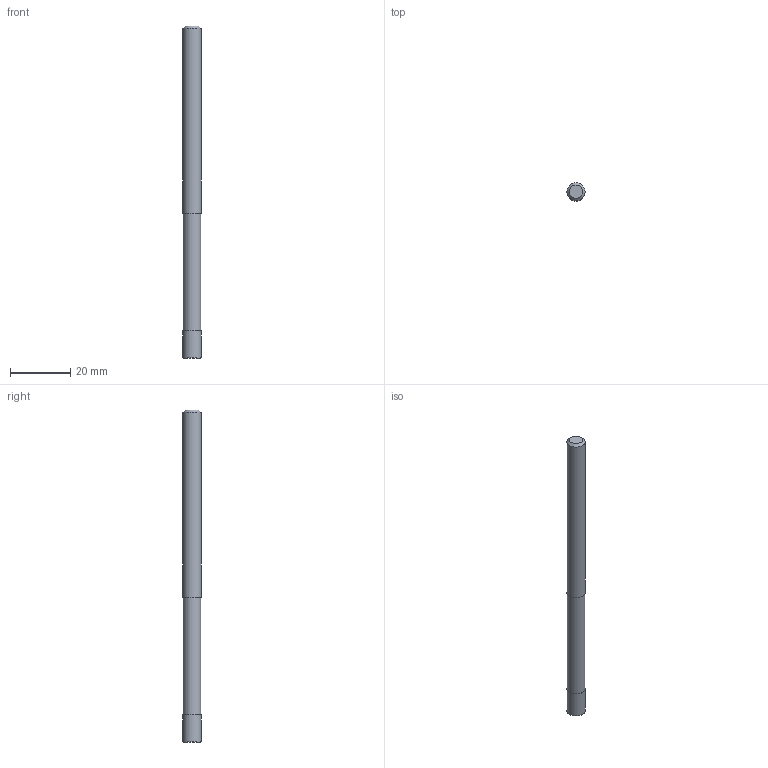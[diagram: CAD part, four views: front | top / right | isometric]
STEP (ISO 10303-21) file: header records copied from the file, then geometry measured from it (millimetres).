
FILE_DESCRIPTION((''),'2;1');
FILE_NAME('C:\Users\nsx150\AppData\Local\Temp\Mastercam 2021\17T8Q8S9EB\TEMP.step','2021-04-21T14:40:36',(''),(''),'STEP Write','Mastercam 2021 ... CNC Software, Inc.','');
FILE_SCHEMA(('AUTOMOTIVE_DESIGN'));
Length unit declared in the file: millimetre
Products named in the file (1): None
Bounding box: 6 x 6 x 110 mm (x, y, z)
Volume: 3032.4 mm3; surface area: 2151.6 mm2
Topology: 2 solids, 2 shells, 10 faces, 13 edges, 8 vertices
Faces by surface type: plane 5, cylinder 3, torus 1, cone 1
Full cylindrical faces by diameter (mm): 5.8 x1, 6 x2
Entity records: 232 total; most frequent: DIRECTION 40, CARTESIAN_POINT 28, AXIS2_PLACEMENT_3D 20, ORIENTED_EDGE 16, EDGE_LOOP 16, STYLED_ITEM 13, ADVANCED_FACE 10, FACE_BOUND 10
